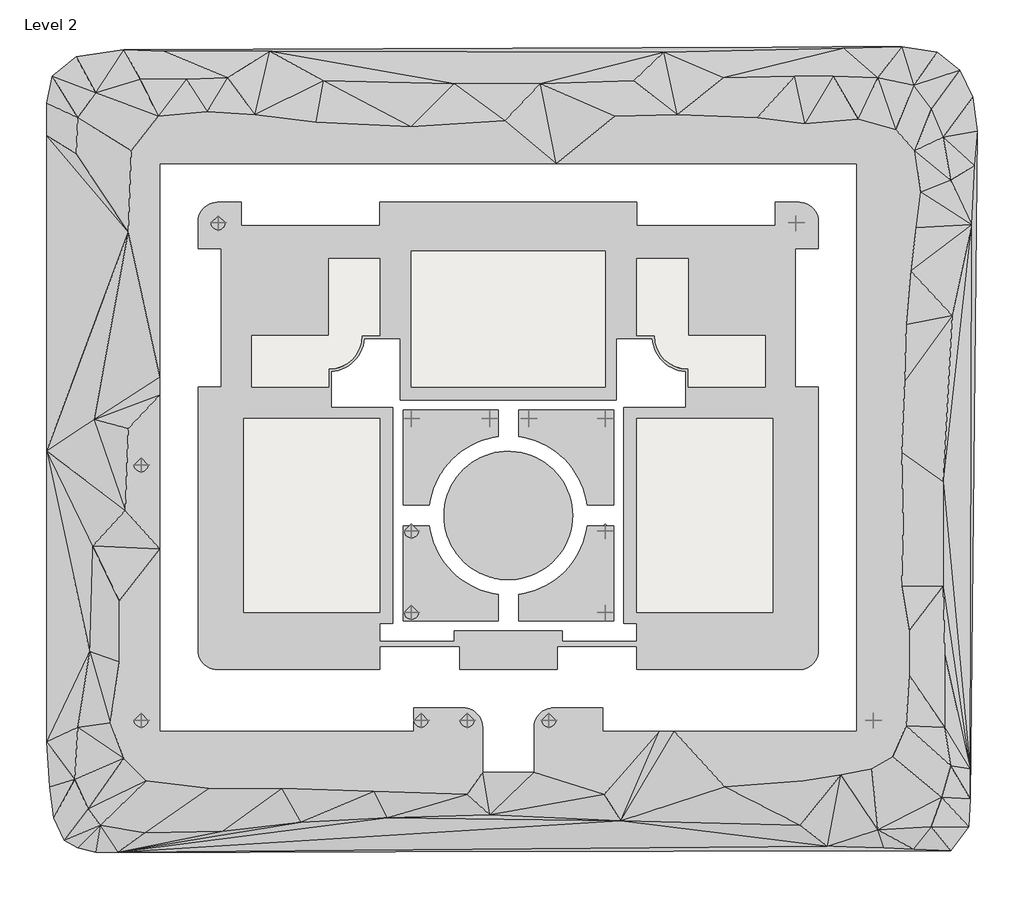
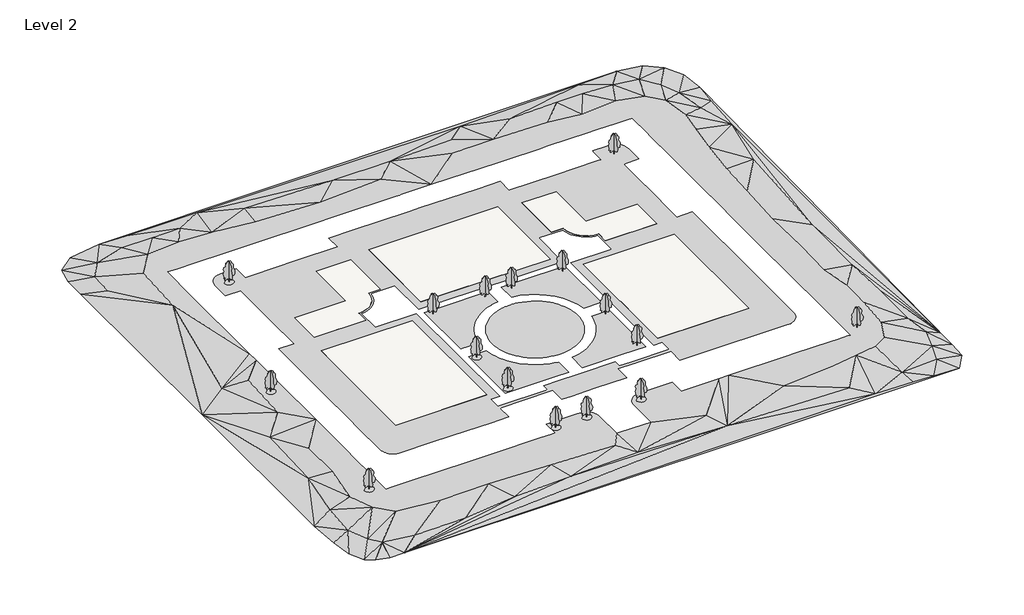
# One storey, incomplete: 16 geographic elements, 5 slabs, 1 proxy.
"""IFC4 building model written with IfcOpenShell, lengths in millimetres."""

from ifc_helpers import new_model, si_unit, point, frame, frame_2d, origin, place, context, project, spatial, polyline, circle_curve, trimmed, segment, composite_curve, outline, extrude, triangles, transform, mapped, element, save
from components import rpc_tree_deciduous_red_ash_25_14781bec

model = new_model("IFC4")

# Units and contexts
model_context = context("Model", 3, world=origin())
ifc_project = project(units=[si_unit("LENGTHUNIT", "METRE", prefix="MILLI")], contexts=[model_context])

# Site, building, storey
site = spatial("IfcSite", under=ifc_project)
building = spatial("IfcBuilding", under=site)
storey = spatial("IfcBuildingStorey", under=building, Name="Level 2", Elevation=4000.0)

# Proxy
placement = place(None, origin())
element("IfcBuildingElementProxy", 1, Name="Building Element Proxy", at=placement, inside=storey, context=model_context, shape_type="Tessellation", body=[
    triangles([(-195077.6740723, 8691.5340134, 0.0), (-195077.6740723, -66138.7722656, 0.0), (-195077.6740723, -135321.5075684, 0.0), (-194371.7264648, -145910.7030762, 0.0), (-193312.8143555, -153323.1343506, 0.0), (-190842.0070313, -158617.7414063, 0.0), (-187665.2334961, -160382.601123, 0.0), (-183429.5664551, -161441.5132324, 0.0), (-178134.9687012, -161441.5132324, 0.0), (19529.9893066, -161088.5487305, 0.0), (23765.6679749, -155440.9771729, 0.0), (24118.6394531, -148734.4842041, 0.0), (25883.5061462, 9750.4536804, 0.0), (24824.5870605, 17868.8360504, 0.0), (21647.827478, 24222.3517273, 0.0), (16353.2308868, 28458.0303955, 0.0), (7881.8758759, 29869.9232849, 0.0), (-176723.0734863, 29163.9756775, 0.0), (-188018.2166016, 27399.1113098, 0.0), (-193665.7788574, 22810.4588379, 0.0), (-195077.6740723, 16456.943161, 0.0), (-91565.4156006, -131797.3412842, 3048.0), (-91611.9522949, -131146.6833252, 3048.0), (-91750.6135986, -130509.2617676, 3048.0), (-91978.5810791, -129898.0618652, 3048.0), (-92291.2038574, -129325.5293701, 3048.0), (-92682.128833, -128803.3193848, 3048.0), (-93143.3937012, -128342.0545166, 3048.0), (-93665.6036865, -127951.129541, 3048.0), (-94085.0943604, -127722.0737549, 3048.0), (-94238.1361816, -127638.5067627, 3048.0), (-94849.336084, -127410.5392822, 3048.0), (-95486.7483398, -127271.8779785, 3048.0), (-96137.4156006, -127225.3412842, 3048.0), (-96917.0331299, -127225.3412842, 3048.0), (-107872.2156006, -127225.3412842, 3048.0), (-107872.2156006, -132711.7412842, 3048.0), (-109055.1945557, -132711.7412842, 3048.0), (-113205.545874, -132711.7412842, 3048.0), (-130021.8217529, -132711.7412842, 3048.0), (-136471.2234375, -132711.7412842, 3048.0), (-151031.4230713, -132711.7412842, 3048.0), (-156686.287207, -132711.7412842, 3048.0), (-166169.6711426, -132711.7412842, 3048.0), (-168222.6249023, -132711.7412842, 3048.0), (-168222.6249023, -129803.4071777, 3048.0), (-168222.6249023, -123715.5183105, 3048.0), (-168222.6249023, -112839.3542725, 3048.0), (-168222.6249023, -108944.6152588, 3048.0), (-168222.6249023, -89478.501123, 3048.0), (-168222.6249023, -87023.6556152, 3048.0), (-168222.6249023, -68873.2053589, 3048.0), (-168222.6249023, -52893.4737671, 3048.0), (-168222.6249023, -48677.8473633, 3048.0), (-168222.6249023, -9881.2910431, 3048.0), (-168222.6249023, -7335.4644608, 3048.0), (-168222.6249023, -2878.799572, 3048.0), (-168222.6249023, 2009.8571171, 3048.0), (-165023.8620117, 2009.8571171, 3048.0), (-158167.5177246, 2009.8571171, 3048.0), (-147975.5258789, 2009.8571171, 3048.0), (-137219.4568359, 2009.8571171, 3048.0), (-116835.2592041, 2009.8571171, 3048.0), (-107854.532959, 2009.8571171, 3048.0), (-86925.494165, 2009.8571171, 3048.0), (-85469.4156006, 2009.8571171, 3048.0), (-84851.657959, 2009.8571171, 3048.0), (-74135.7353027, 2009.8571171, 3048.0), (-50617.2778198, 2009.8571171, 3048.0), (-47895.234668, 2009.8571171, 3048.0), (-35482.0690979, 2009.8571171, 3048.0), (-32722.1166321, 2009.8571171, 3048.0), (-18502.3066864, 2009.8571171, 3048.0), (-15439.1645874, 2009.8571171, 3048.0), (-8244.3299149, 2009.8571171, 3048.0), (-4876.9546417, 2009.8571171, 3048.0), (-2716.2156006, 2009.8571171, 3048.0), (-2716.2156006, -6.8326078, 3048.0), (-2716.2156006, -5698.3579926, 3048.0), (-2716.2156006, -10713.0914337, 3048.0), (-2716.2156006, -19932.808905, 3048.0), (-2716.2156006, -25463.0759949, 3048.0), (-2716.2156006, -36324.047937, 3048.0), (-2716.2156006, -39230.4751831, 3048.0), (-2716.2156006, -54081.5454346, 3048.0), (-2716.2156006, -57640.1561279, 3048.0), (-2716.2156006, -78679.5509766, 3048.0), (-2716.2156006, -93648.8326172, 3048.0), (-2716.2156006, -99848.9937012, 3048.0), (-2716.2156006, -110282.3754639, 3048.0), (-2716.2156006, -119294.9323242, 3048.0), (-2716.2156006, -126435.2592773, 3048.0), (-2716.2156006, -131800.6713135, 3048.0), (-2716.2156006, -132711.7412842, 3048.0), (-3627.2861526, -132711.7412842, 3048.0), (-7128.3945419, -132711.7412842, 3048.0), (-9475.8297455, -132711.7412842, 3048.0), (-22487.2901917, -132711.7412842, 3048.0), (-25122.6386353, -132711.7412842, 3048.0), (-46095.4654541, -132711.7412842, 3048.0), (-49700.7337646, -132711.7412842, 3048.0), (-63066.6156006, -132711.7412842, 3048.0), (-63066.6156006, -127225.3412842, 3048.0), (-65737.3967651, -127225.3412842, 3048.0), (-74801.4156006, -127225.3412842, 3048.0), (-75452.0782104, -127271.8779785, 3048.0), (-76089.4951172, -127410.5392822, 3048.0), (-76700.6950195, -127638.5067627, 3048.0), (-77273.2275146, -127951.129541, 3048.0), (-77795.4375, -128342.0545166, 3048.0), (-78256.7023682, -128803.3193848, 3048.0), (-78647.6273438, -129325.5293701, 3048.0), (-78960.2501221, -129898.0618652, 3048.0), (-79188.2176025, -130509.2617676, 3048.0), (-79326.8789062, -131146.6833252, 3048.0), (-79373.4156006, -131797.3412842, 3048.0), (-79373.4156006, -142465.3412842, 3048.0), (-85469.4156006, -142465.3412842, 3048.0), (-91565.4156006, -142465.3412842, 3048.0), (-148258.2156006, -58492.9412842, 3048.0), (-148258.2156006, -90413.7370605, 3048.0), (-148258.2156006, -103602.7831787, 3048.0), (-148258.2156006, -104517.7412842, 3048.0), (-147156.4316895, -104517.7412842, 3048.0), (-135186.213501, -104517.7412842, 3048.0), (-115949.4156006, -104517.7412842, 3048.0), (-115949.4156006, -58492.9412842, 3048.0), (-62457.0156006, -18716.5424469, 3048.0), (-81786.1613525, -18716.5424469, 3048.0), (-88069.340625, -18716.5424469, 3048.0), (-106100.4074707, -18716.5424469, 3048.0), (-108481.8156006, -18716.5424469, 3048.0), (-108481.8156006, -51025.3412842, 3048.0), (-103366.0348389, -51025.3412842, 3048.0), (-89852.3852783, -51025.3412842, 3048.0), (-77007.5972168, -51025.3412842, 3048.0), (-62457.0156006, -51025.3412842, 3048.0), (-22680.6156006, -104517.7412842, 3048.0), (-22680.6156006, -101638.6053955, 3048.0), (-22680.6156006, -58492.9412842, 3048.0), (-54989.4156006, -58492.9412842, 3048.0), (-54989.4156006, -104517.7412842, 3048.0), (-25184.2092957, -104517.7412842, 3048.0), (-115949.4156006, -20545.3436096, 3048.0), (-128141.4156006, -20545.3436096, 3048.0), (-128141.4156006, -38833.3436096, 3048.0), (-146429.4156006, -38833.3436096, 3048.0), (-146429.4156006, -51025.3412842, 3048.0), (-128141.4156006, -51025.3412842, 3048.0), (-128141.4156006, -46758.1412842, 3048.0), (-127254.1209229, -46708.3117676, 3048.0), (-126377.9790527, -46559.4510864, 3048.0), (-125524.021875, -46313.428894, 3048.0), (-124702.9743164, -45973.3426758, 3048.0), (-123925.1706299, -45543.4619385, 3048.0), (-123200.3869629, -45029.2003052, 3048.0), (-122537.7390381, -44437.0224976, 3048.0), (-121945.5612305, -43774.3745728, 3048.0), (-121431.2949463, -43049.5909058, 3048.0), (-121001.414209, -42271.7825684, 3048.0), (-120661.3326416, -41450.7396606, 3048.0), (-120415.3104492, -40596.777832, 3048.0), (-120266.4451172, -39720.6406128, 3048.0), (-120216.6156006, -38833.3436096, 3048.0), (-115949.4156006, -38833.3436096, 3048.0), (-54989.4156006, -20545.3436096, 3048.0), (-54989.4156006, -38833.3436096, 3048.0), (-50722.2156006, -38833.3436096, 3048.0), (-50672.386084, -39720.6406128, 3048.0), (-50523.5254028, -40596.777832, 3048.0), (-50277.5032104, -41450.7396606, 3048.0), (-49937.4123413, -42271.7825684, 3048.0), (-49507.5362549, -43049.5909058, 3048.0), (-48993.2746216, -43774.3745728, 3048.0), (-48401.096814, -44437.0224976, 3048.0), (-47738.4488892, -45029.2003052, 3048.0), (-47013.6652222, -45543.4619385, 3048.0), (-46235.8568848, -45973.3426758, 3048.0), (-45414.8093262, -46313.428894, 3048.0), (-44560.8474976, -46559.4510864, 3048.0), (-43684.7102783, -46708.3117676, 3048.0), (-42797.4156006, -46758.1412842, 3048.0), (-42797.4156006, -51025.3412842, 3048.0), (-24509.4156006, -51025.3412842, 3048.0), (-24509.4156006, -39438.3415649, 3048.0), (-24509.4156006, -38833.3436096, 3048.0), (-25233.7899902, -38833.3436096, 3048.0), (-42797.4156006, -38833.3436096, 3048.0), (-42797.4156006, -24164.0971436, 3048.0), (-42797.4156006, -20545.3436096, 3048.0), (-47130.1836914, -20545.3436096, 3048.0), (-115949.4156006, -7134.1430283, 3048.0), (-115949.4156006, -12620.5424469, 3048.0), (-130528.7396484, -12620.5424469, 3048.0), (-146168.1478271, -12620.5424469, 3048.0), (-148867.8156006, -12620.5424469, 3048.0), (-148867.8156006, -7134.1430283, 3048.0), (-154506.6156006, -7134.1430283, 3048.0), (-155157.2828613, -7180.6791412, 3048.0), (-155794.6951172, -7319.3410263, 3048.0), (-156405.8950195, -7547.3056, 3048.0), (-156978.4182129, -7859.9318665, 3048.0), (-157500.6375, -8250.8556793, 3048.0), (-157961.9116699, -8712.1193848, 3048.0), (-158352.8273438, -9234.3328583, 3048.0), (-158665.4594238, -9806.8653534, 3048.0), (-158893.4083008, -10418.0617676, 3048.0), (-159032.0789063, -11055.479837, 3048.0), (-159078.6249023, -11706.1424469, 3048.0), (-159078.6249023, -18106.9424469, 3048.0), (-153592.2156006, -18106.9424469, 3048.0), (-153592.2156006, -24758.3027344, 3048.0), (-153592.2156006, -37262.048822, 3048.0), (-153592.2156006, -51025.3412842, 3048.0), (-159078.6249023, -51025.3412842, 3048.0), (-159078.6249023, -78739.1008301, 3048.0), (-159078.6249023, -94617.1456055, 3048.0), (-159078.6249023, -99827.106665, 3048.0), (-159078.6249023, -113509.3412842, 3048.0), (-159032.0789063, -114160.0085449, 3048.0), (-158893.4083008, -114797.4208008, 3048.0), (-158665.4594238, -115408.6207031, 3048.0), (-158352.8273438, -115981.1531982, 3048.0), (-157961.9116699, -116503.3631836, 3048.0), (-157500.6375, -116964.6280518, 3048.0), (-156978.4182129, -117355.5530273, 3048.0), (-156405.8950195, -117668.1758057, 3048.0), (-155794.6951172, -117896.1432861, 3048.0), (-155157.2828613, -118034.8045898, 3048.0), (-154506.6156006, -118081.3412842, 3048.0), (-142949.2094238, -118081.3412842, 3048.0), (-130823.3077148, -118081.3412842, 3048.0), (-122615.0738525, -118081.3412842, 3048.0), (-115949.4156006, -118081.3412842, 3048.0), (-115949.4156006, -112594.9412842, 3048.0), (-98155.2459229, -112594.9412842, 3048.0), (-97051.8156006, -112594.9412842, 3048.0), (-97051.8156006, -118081.3412842, 3048.0), (-93553.0431152, -118081.3412842, 3048.0), (-85469.4156006, -118081.3412842, 3048.0), (-73887.0156006, -118081.3412842, 3048.0), (-73887.0156006, -112594.9412842, 3048.0), (-67901.2786377, -112594.9412842, 3048.0), (-54989.4156006, -112594.9412842, 3048.0), (-54989.4156006, -118081.3412842, 3048.0), (-36978.6451904, -118081.3412842, 3048.0), (-29848.4478516, -118081.3412842, 3048.0), (-16432.2156006, -118081.3412842, 3048.0), (-15781.551828, -118034.8045898, 3048.0), (-15144.1349213, -117896.1432861, 3048.0), (-14979.1333649, -117834.6028564, 3048.0), (-14532.9385071, -117668.1758057, 3048.0), (-13960.406012, -117355.5530273, 3048.0), (-13438.1925385, -116964.6280518, 3048.0), (-12976.928833, -116503.3631836, 3048.0), (-12586.0050201, -115981.1531982, 3048.0), (-12273.3787537, -115408.6207031, 3048.0), (-12045.4135986, -114797.4208008, 3048.0), (-11906.7522949, -114160.0085449, 3048.0), (-11860.2156006, -113509.3412842, 3048.0), (-11860.2156006, -113260.1937012, 3048.0), (-11860.2156006, -101882.9811768, 3048.0), (-11860.2156006, -89195.1509766, 3048.0), (-11860.2156006, -51025.3412842, 3048.0), (-17346.6156006, -51025.3412842, 3048.0), (-17346.6156006, -45420.7578003, 3048.0), (-17346.6156006, -36949.5725464, 3048.0), (-17346.6156006, -25875.546167, 3048.0), (-17346.6156006, -19207.4369019, 3048.0), (-17346.6156006, -18106.9424469, 3048.0), (-11860.2156006, -18106.9424469, 3048.0), (-11860.2156006, -17090.9730652, 3048.0), (-11860.2156006, -11706.1424469, 3048.0), (-11906.7522949, -11055.479837, 3048.0), (-12045.4135986, -10418.0617676, 3048.0), (-12273.3787537, -9806.8653534, 3048.0), (-12586.0050201, -9234.3328583, 3048.0), (-12976.928833, -8712.1193848, 3048.0), (-13438.1925385, -8250.8556793, 3048.0), (-13960.406012, -7859.9318665, 3048.0), (-14532.9385071, -7547.3056, 3048.0), (-15144.1349213, -7319.3410263, 3048.0), (-15781.551828, -7180.6791412, 3048.0), (-16432.2156006, -7134.1430283, 3048.0), (-22071.0156006, -7134.1430283, 3048.0), (-22071.0156006, -7742.123941, 3048.0), (-22071.0156006, -12620.5424469, 3048.0), (-22976.7533386, -12620.5424469, 3048.0), (-31867.5478638, -12620.5424469, 3048.0), (-38123.177655, -12620.5424469, 3048.0), (-54989.4156006, -12620.5424469, 3048.0), (-54989.4156006, -7134.1430283, 3048.0), (-63187.5384521, -7134.1430283, 3048.0), (-83499.2288818, -7134.1430283, 3048.0), (-87430.1331299, -7134.1430283, 3048.0), (-107080.6546143, -7134.1430283, 3048.0), (-111072.6156006, -54073.3412842, 3048.0), (-103108.0691895, -54073.3412842, 3048.0), (-90020.5982666, -54073.3412842, 3048.0), (-76556.7875244, -54073.3412842, 3048.0), (-59866.2156006, -54073.3412842, 3048.0), (-59866.2156006, -39442.9412842, 3048.0), (-51310.0169312, -39442.9412842, 3048.0), (-51203.7210937, -40306.4467163, 3048.0), (-51010.063147, -41154.6368042, 3048.0), (-50731.0569214, -41978.7074341, 3048.0), (-50369.5999146, -42770.091687, 3048.0), (-49929.4546875, -43520.5621582, 3048.0), (-49415.1884033, -44222.3193237, 3048.0), (-48832.1495728, -44868.0752563, 3048.0), (-48186.3936401, -45451.1140869, 3048.0), (-47484.6318237, -45965.3803711, 3048.0), (-46734.1613525, -46405.530249, 3048.0), (-45942.7817505, -46766.982605, 3048.0), (-45118.7111206, -47045.9888306, 3048.0), (-44270.5163818, -47239.6467773, 3048.0), (-43407.0156006, -47345.9426147, 3048.0), (-43407.0156006, -55902.1412842, 3048.0), (-58037.4156006, -55902.1412842, 3048.0), (-58037.4156006, -107108.5412842, 3048.0), (-54989.4156006, -107108.5412842, 3048.0), (-54989.4156006, -111375.7412842, 3048.0), (-68081.5978638, -111375.7412842, 3048.0), (-72667.8156006, -111375.7412842, 3048.0), (-72667.8156006, -108937.3412842, 3048.0), (-85469.4156006, -108937.3412842, 3048.0), (-93048.4134521, -108937.3412842, 3048.0), (-98271.0156006, -108937.3412842, 3048.0), (-98271.0156006, -111226.9875732, 3048.0), (-98271.0156006, -111375.7412842, 3048.0), (-115949.4156006, -111375.7412842, 3048.0), (-115949.4156006, -107108.5412842, 3048.0), (-112901.4156006, -107108.5412842, 3048.0), (-112901.4156006, -55902.1412842, 3048.0), (-127531.8156006, -55902.1412842, 3048.0), (-127531.8156006, -47345.9426147, 3048.0), (-126668.3148193, -47239.6467773, 3048.0), (-125820.1154297, -47045.9888306, 3048.0), (-124996.0541016, -46766.982605, 3048.0), (-124204.6698486, -46405.530249, 3048.0), (-123454.1947266, -45965.3803711, 3048.0), (-122752.4422119, -45451.1140869, 3048.0), (-122106.6862793, -44868.0752563, 3048.0), (-121523.6427979, -44222.3193237, 3048.0), (-121009.3765137, -43520.5621582, 3048.0), (-120569.2266357, -42770.091687, 3048.0), (-120207.7789307, -41978.7074341, 3048.0), (-119928.7727051, -41154.6368042, 3048.0), (-119735.1101074, -40306.4467163, 3048.0), (-119628.8189209, -39442.9412842, 3048.0), (-111072.6156006, -39442.9412842, 3048.0), (-87907.8156006, -56511.7412842, 3048.0), (-90155.1667969, -56511.7412842, 3048.0), (-102901.7003906, -56511.7412842, 3048.0), (-110463.0156006, -56511.7412842, 3048.0), (-110463.0156006, -79066.9412842, 3048.0), (-104209.0438477, -79066.9412842, 3048.0), (-103981.7088867, -77708.7032593, 3048.0), (-103656.0636475, -76370.6314453, 3048.0), (-103233.8382568, -75059.8230835, 3048.0), (-102717.2744385, -73783.2451904, 3048.0), (-102109.1162109, -72547.6740967, 3048.0), (-101615.7602783, -71706.2091797, 3048.0), (-101412.5912842, -71359.6768433, 3048.0), (-100631.3924561, -70225.5553711, 3048.0), (-99769.6869141, -69151.3372192, 3048.0), (-98832.0325195, -68142.7197144, 3048.0), (-97823.4243164, -67205.0699707, 3048.0), (-96749.2015137, -66343.3597778, 3048.0), (-95615.0846924, -65562.1702515, 3048.0), (-94427.0827881, -64865.6453247, 3048.0), (-93191.5116943, -64257.4870972, 3048.0), (-91914.9384521, -63740.9232788, 3048.0), (-90604.1254395, -63318.6978882, 3048.0), (-90529.822998, -63300.615271, 3048.0), (-89266.0489746, -62993.0526489, 3048.0), (-87907.8156006, -62765.717688, 3048.0), (-87907.8156006, -106498.9412842, 3048.0), (-87907.8156006, -100244.9695312, 3048.0), (-89266.0489746, -100017.6345703, 3048.0), (-90604.1254395, -99691.9893311, 3048.0), (-91914.9384521, -99269.7639404, 3048.0), (-92501.7770508, -99032.2993652, 3048.0), (-93191.5116943, -98753.2001221, 3048.0), (-94427.0827881, -98145.0418945, 3048.0), (-95615.0846924, -97448.5169678, 3048.0), (-96749.2015137, -96667.3274414, 3048.0), (-97823.4243164, -95805.6125977, 3048.0), (-98832.0325195, -94867.9675049, 3048.0), (-99737.9958252, -93893.4409424, 3048.0), (-99769.6869141, -93859.35, 3048.0), (-100631.3924561, -92785.1271973, 3048.0), (-101412.5912842, -91651.010376, 3048.0), (-102109.1162109, -90463.0084717, 3048.0), (-102717.2744385, -89227.4373779, 3048.0), (-103233.8382568, -87950.8641357, 3048.0), (-103656.0636475, -86640.051123, 3048.0), (-103981.7088867, -85301.98396, 3048.0), (-104209.0438477, -83943.7412842, 3048.0), (-110463.0156006, -83943.7412842, 3048.0), (-110463.0156006, -106498.9412842, 3048.0), (-98671.1586182, -106498.9412842, 3048.0), (-92913.8356201, -106498.9412842, 3048.0), (-100709.4156006, -81505.3412842, 3048.0), (-100659.9953613, -82731.6571289, 3048.0), (-100512.0602051, -83950.0106689, 3048.0), (-100266.5682129, -85152.5140137, 3048.0), (-99925.1099854, -86331.3629883, 3048.0), (-99489.8993408, -87478.9115479, 3048.0), (-98963.7640137, -88587.7275879, 3048.0), (-98350.1084473, -89650.6022461, 3048.0), (-97652.9230957, -90660.6522217, 3048.0), (-96876.7193115, -91611.3290771, 3048.0), (-96026.5386475, -92496.4657471, 3048.0), (-95107.8877441, -93310.3230469, 3048.0), (-94126.7197266, -94047.6175781, 3048.0), (-93089.4156006, -94703.5682373, 3048.0), (-92286.1437012, -95125.1611084, 3048.0), (-92002.6912354, -95273.9241211, 3048.0), (-90873.5973633, -95754.9924316, 3048.0), (-89709.445166, -96143.6384766, 3048.0), (-88517.8062744, -96437.3507813, 3048.0), (-87306.3918457, -96634.2224854, 3048.0), (-86083.071167, -96732.979248, 3048.0), (-84855.7600342, -96732.979248, 3048.0), (-83632.4393555, -96634.2224854, 3048.0), (-82421.0249268, -96437.3507813, 3048.0), (-81229.3860352, -96143.6384766, 3048.0), (-80065.2338379, -95754.9924316, 3048.0), (-78936.1399658, -95273.9241211, 3048.0), (-77849.4156006, -94703.5682373, 3048.0), (-76812.1068237, -94047.6175781, 3048.0), (-75830.9481079, -93310.3230469, 3048.0), (-74912.2972046, -92496.4657471, 3048.0), (-74062.1118896, -91611.3290771, 3048.0), (-73285.9081055, -90660.6522217, 3048.0), (-72588.718103, -89650.6022461, 3048.0), (-71975.0671875, -88587.7275879, 3048.0), (-71576.305481, -87747.3602783, 3048.0), (-71448.9272095, -87478.9115479, 3048.0), (-71013.7212158, -86331.3629883, 3048.0), (-70672.2629883, -85152.5140137, 3048.0), (-70426.7709961, -83950.0106689, 3048.0), (-70278.8358398, -82731.6571289, 3048.0), (-70229.4156006, -81505.3412842, 3048.0), (-70278.8358398, -80279.0347412, 3048.0), (-70426.7709961, -79060.6718994, 3048.0), (-70672.2629883, -77858.1732056, 3048.0), (-71013.7212158, -76679.324231, 3048.0), (-71448.9272095, -75531.7710205, 3048.0), (-71975.0671875, -74422.9596313, 3048.0), (-72588.718103, -73360.0849731, 3048.0), (-73285.9081055, -72350.0303467, 3048.0), (-73979.2053223, -71500.8961304, 3048.0), (-74062.1118896, -71399.3534912, 3048.0), (-74912.2972046, -70514.2168213, 3048.0), (-75830.9481079, -69700.3641724, 3048.0), (-76812.1068237, -68963.0696411, 3048.0), (-77849.4156006, -68307.1143311, 3048.0), (-78936.1399658, -67736.7584473, 3048.0), (-80065.2338379, -67255.6947876, 3048.0), (-81229.3860352, -66867.0487427, 3048.0), (-82421.0249268, -66573.3317871, 3048.0), (-83632.4393555, -66376.460083, 3048.0), (-84855.7600342, -66277.7033203, 3048.0), (-86083.071167, -66277.7033203, 3048.0), (-87306.3918457, -66376.460083, 3048.0), (-88517.8062744, -66573.3317871, 3048.0), (-89709.445166, -66867.0487427, 3048.0), (-90745.7447021, -67213.0136719, 3048.0), (-90873.5973633, -67255.6947876, 3048.0), (-92002.6912354, -67736.7584473, 3048.0), (-93089.4156006, -68307.1143311, 3048.0), (-94126.7197266, -68963.0696411, 3048.0), (-95107.8877441, -69700.3641724, 3048.0), (-96026.5386475, -70514.2168213, 3048.0), (-96876.7193115, -71399.3534912, 3048.0), (-97652.9230957, -72350.0303467, 3048.0), (-98350.1084473, -73360.0849731, 3048.0), (-98963.7640137, -74422.9596313, 3048.0), (-99489.8993408, -75531.7710205, 3048.0), (-99925.1099854, -76679.324231, 3048.0), (-100266.5682129, -77858.1732056, 3048.0), (-100512.0602051, -79060.6718994, 3048.0), (-100659.9953613, -80279.0347412, 3048.0), (-83031.0156006, -56511.7412842, 3048.0), (-83031.0156006, -62765.717688, 3048.0), (-81672.7822266, -62993.0526489, 3048.0), (-80334.7057617, -63318.6978882, 3048.0), (-79023.892749, -63740.9232788, 3048.0), (-77747.3195068, -64257.4870972, 3048.0), (-76511.7484131, -64865.6453247, 3048.0), (-75323.7465088, -65562.1702515, 3048.0), (-74804.6758667, -65919.7112183, 3048.0), (-74189.6250366, -66343.3597778, 3048.0), (-73115.4068848, -67205.0699707, 3048.0), (-72106.7940308, -68142.7197144, 3048.0), (-71169.1442871, -69151.3372192, 3048.0), (-70307.4340942, -70225.5553711, 3048.0), (-69526.2445679, -71359.6768433, 3048.0), (-68829.7196411, -72547.6740967, 3048.0), (-68221.5614136, -73783.2451904, 3048.0), (-67704.9975952, -75059.8230835, 3048.0), (-67282.7722046, -76370.6314453, 3048.0), (-66957.1269653, -77708.7032593, 3048.0), (-66729.7920044, -79066.9412842, 3048.0), (-60475.8156006, -79066.9412842, 3048.0), (-60475.8156006, -56511.7412842, 3048.0), (-76196.1444214, -56511.7412842, 3048.0), (-83031.0156006, -106498.9412842, 3048.0), (-68802.8933716, -106498.9412842, 3048.0), (-60475.8156006, -106498.9412842, 3048.0), (-60475.8156006, -83943.7412842, 3048.0), (-66729.7920044, -83943.7412842, 3048.0), (-66957.1269653, -85301.98396, 3048.0), (-67282.7722046, -86640.051123, 3048.0), (-67704.9975952, -87950.8641357, 3048.0), (-68221.5614136, -89227.4373779, 3048.0), (-68829.7196411, -90463.0084717, 3048.0), (-69526.2445679, -91651.010376, 3048.0), (-70307.4340942, -92785.1271973, 3048.0), (-70749.6675659, -93336.4237793, 3048.0), (-71169.1442871, -93859.35, 3048.0), (-72106.7940308, -94867.9675049, 3048.0), (-73115.4068848, -95805.6125977, 3048.0), (-74189.6250366, -96667.3274414, 3048.0), (-75323.7465088, -97448.5169678, 3048.0), (-76511.7484131, -98145.0418945, 3048.0), (-77747.3195068, -98753.2001221, 3048.0), (-79023.892749, -99269.7639404, 3048.0), (-80334.7057617, -99691.9893311, 3048.0), (-81672.7822266, -100017.6345703, 3048.0), (-83031.0156006, -100244.9695312, 3048.0), (-167192.8086914, 28811.0018738, 0.0), (-142131.705835, 28811.0018738, 0.0), (-48593.824585, 28458.0303955, 0.0), (-5884.076889, 29516.9494812, 0.0), (25177.5585388, 1632.0713104, 0.0), (24471.6132568, -12486.8540955, 0.0), (24118.6394531, -141675.0267334, 0.0), (10705.6604919, -160735.565625, 0.0), (3646.1980797, -160382.601123, 0.0), (-9766.7805908, -160029.6180176, 0.0), (-188018.2166016, 4455.8562172, 1524.0), (-187665.2334961, 12927.2121002, 1524.0), (-183429.5664551, 18927.7551361, 1524.0), (-172840.3709473, 22104.5135559, 1524.0), (-161898.2109375, 22104.5135559, 1524.0), (-152014.9537354, 22457.4873596, 1524.0), (-129424.6768066, 21751.5397522, 1524.0), (-98363.0378906, 21045.5944702, 1524.0), (-77890.5991333, 21045.5944702, 1524.0), (-55653.2913574, 21751.5397522, 1524.0), (-34474.9003418, 22457.4873596, 1524.0), (-17532.1903198, 22810.4588379, 1524.0), (-8354.8888641, 22810.4588379, 1524.0), (2234.305481, 22457.4873596, 1524.0), (10705.6604919, 20692.6206665, 1524.0), (14941.3379974, 15045.0502716, 1524.0), (17765.1237762, 8338.560791, 1524.0), (19529.9893066, -1897.6601864, 1524.0), (19882.9631104, -34018.2165894, 1524.0), (17765.1237762, -73551.2081909, 1524.0), (17765.1237762, -98259.323291, 1524.0), (18118.0964172, -114496.0903564, 1524.0), (18118.0964172, -131791.778833, 1524.0), (19529.9893066, -140969.079126, 1524.0), (17412.1499725, -148381.5104004, 1524.0), (14941.3379974, -155440.9771729, 1524.0), (2234.305481, -156146.9154785, 1524.0), (-16120.2974304, -155088.0033691, 1524.0), (-58830.0462891, -154029.081958, 1524.0), (-89891.6852051, -152617.1867432, 1524.0), (-114246.8311523, -153323.1343506, 1524.0), (-134719.2745605, -154382.0557617, 1524.0), (-153426.8489502, -156499.898584, 1524.0), (-171781.4588379, -156852.8630859, 1524.0), (-182370.6543457, -155088.0033691, 1524.0), (-185194.4261719, -151205.3008301, 1524.0), (-188371.1811035, -144145.8340576, 1524.0), (-187665.2334961, -131791.778833, 1524.0), (-184841.4616699, -113790.142749, 1524.0), (-184135.5140625, -88729.0491943, 1524.0), (-183782.530957, -58726.3363403, 1524.0), (-175664.161377, -14251.7196259, 3048.0), (-174958.2137695, 5161.8023712, 3048.0), (-168604.6853027, 13280.1847412, 3048.0), (-156956.5776855, 14339.1038269, 3048.0), (-145661.4438721, 13633.1573822, 3048.0), (-131189.5365234, 11868.2918518, 3048.0), (-108599.2595947, 10809.3727661, 3048.0), (-86361.9564697, 12221.2656555, 3048.0), (-60241.9415039, 13280.1847412, 3048.0), (-45417.0696533, 13633.1573822, 3048.0), (-26356.5191345, 12927.2121002, 3048.0), (-15061.3783447, 11515.3192108, 3048.0), (-2354.3452469, 12574.2382965, 3048.0), (6469.9829865, 10103.4263214, 3048.0), (11058.6342957, 5161.8023712, 3048.0), (12470.5260223, -4721.4452385, 3048.0), (11411.6069366, -13192.8005402, 3048.0), (9999.7140472, -23429.0210815, 3048.0), (8940.7949615, -36136.0547607, 3048.0), (8587.8223206, -49549.0360474, 3048.0), (7881.8758759, -66491.7460693, 3048.0), (8234.8490982, -83787.4252441, 3048.0), (7881.8758759, -98259.323291, 3048.0), (9646.7414063, -108848.5187988, 3048.0), (9646.7414063, -119437.7143066, 3048.0), (8940.7949615, -131438.8050293, 3048.0), (5764.0371231, -138851.2363037, 3048.0), (822.4130276, -141675.0267334, 3048.0), (-6590.0227524, -143086.9126465, 3048.0), (-15414.3509857, -144498.8078613, 3048.0), (-34121.9265381, -145910.7030762, 3048.0), (-62712.753479, -147675.562793, 3048.0), (-95186.282959, -147675.562793, 3048.0), (-117423.586084, -146969.6244873, 3048.0), (-139307.924707, -146263.6768799, 3048.0), (-156603.6131836, -146263.6768799, 3048.0), (-171428.4757324, -144498.8078613, 3048.0), (-176723.0734863, -139204.2101074, 3048.0), (-179899.828418, -130732.8574219, 3048.0), (-177782.0041992, -116260.959375, 3048.0), (-177782.0041992, -101789.0613281, 3048.0), (-176370.1089844, -80257.6965088, 3048.0), (-175664.161377, -60844.1745117, 3048.0)], [[5, 6, 579], [5, 580, 4], [578, 6, 7], [8, 9, 578], [621, 579, 578], [579, 6, 578], [577, 578, 9], [580, 5, 579], [9, 576, 577], [578, 7, 8], [577, 621, 578], [580, 622, 581], [580, 579, 622], [580, 581, 3], [581, 622, 623], [582, 581, 623], [3, 581, 582], [622, 45, 623], [580, 3, 4], [45, 46, 623], [45, 621, 44], [47, 623, 46], [44, 621, 620], [622, 621, 45], [579, 621, 622], [47, 624, 623], [621, 577, 620], [620, 576, 619], [576, 620, 577], [620, 42, 43], [42, 620, 619], [42, 619, 41], [576, 575, 619], [620, 43, 44], [575, 574, 618], [575, 576, 9], [40, 41, 619], [619, 618, 40], [40, 618, 39], [618, 617, 37], [619, 575, 618], [9, 574, 575], [229, 230, 219], [232, 125, 231], [230, 231, 123], [233, 125, 232], [39, 618, 38], [618, 37, 38], [235, 233, 234], [618, 574, 617], [574, 572, 573], [624, 625, 582], [219, 220, 227], [624, 582, 623], [224, 225, 222], [47, 48, 624], [222, 223, 224], [222, 225, 221], [221, 226, 220], [218, 219, 123], [49, 625, 624], [626, 583, 50], [625, 583, 582], [625, 50, 583], [583, 626, 2], [49, 624, 48], [122, 217, 218], [50, 51, 626], [216, 217, 121], [50, 625, 49], [51, 52, 626], [226, 221, 225], [3, 582, 2], [228, 219, 227], [219, 228, 229], [230, 123, 219], [123, 122, 218], [231, 124, 123], [231, 125, 124], [235, 330, 331], [126, 332, 333], [233, 332, 125], [235, 236, 330], [331, 332, 233], [235, 331, 233], [394, 401, 393], [356, 361, 362], [126, 125, 332], [334, 126, 333], [121, 217, 122], [356, 357, 358], [399, 400, 398], [400, 397, 398], [216, 121, 120], [394, 395, 400], [227, 220, 226], [359, 356, 358], [36, 37, 35], [2, 582, 583], [34, 30, 33], [34, 22, 30], [29, 30, 28], [37, 119, 22], [32, 30, 31], [32, 33, 30], [35, 22, 34], [329, 330, 237], [329, 327, 328], [384, 402, 403], [237, 330, 236], [389, 401, 402], [237, 327, 329], [386, 402, 385], [385, 402, 384], [327, 237, 239], [238, 239, 237], [402, 386, 387], [26, 30, 25], [30, 27, 28], [30, 26, 27], [30, 24, 25], [119, 573, 118], [573, 119, 617], [30, 23, 24], [573, 117, 118], [30, 22, 23], [37, 22, 35], [381, 403, 380], [382, 383, 403], [381, 382, 403], [403, 383, 384], [380, 378, 379], [378, 380, 403], [326, 327, 240], [239, 240, 327], [242, 326, 240], [617, 574, 573], [397, 400, 396], [396, 400, 395], [401, 390, 391], [393, 401, 392], [392, 401, 391], [401, 394, 400], [405, 406, 418], [418, 404, 405], [418, 406, 407], [418, 485, 404], [418, 484, 485], [484, 418, 483], [482, 483, 470], [408, 418, 407], [418, 408, 409], [387, 388, 402], [418, 419, 420], [418, 420, 421], [425, 418, 424], [424, 418, 423], [418, 422, 423], [418, 421, 422], [418, 470, 483], [411, 412, 418], [409, 410, 418], [411, 418, 410], [412, 413, 418], [417, 418, 416], [416, 418, 415], [418, 414, 415], [413, 414, 418], [482, 470, 481], [439, 470, 418], [388, 389, 402], [389, 390, 401], [360, 356, 359], [37, 617, 119], [574, 9, 572], [626, 584, 2], [626, 627, 584], [584, 53, 54], [53, 584, 627], [627, 52, 53], [2, 584, 585], [120, 214, 215], [214, 120, 148], [214, 148, 147], [120, 335, 148], [626, 52, 627], [585, 54, 55], [209, 210, 211], [211, 196, 209], [54, 585, 584], [213, 147, 212], [195, 196, 211], [145, 195, 212], [209, 196, 198], [195, 211, 212], [145, 212, 147], [214, 147, 213], [2, 585, 1], [336, 149, 335], [335, 149, 148], [150, 336, 151], [336, 150, 149], [337, 151, 336], [337, 338, 152], [339, 153, 338], [338, 153, 152], [154, 339, 340], [337, 152, 151], [153, 339, 154], [195, 145, 194], [147, 146, 145], [155, 341, 156], [155, 154, 340], [156, 342, 157], [342, 156, 341], [157, 342, 343], [341, 155, 340], [145, 193, 194], [334, 335, 127], [216, 120, 215], [586, 57, 58], [586, 544, 585], [545, 544, 586], [544, 545, 1], [586, 58, 587], [1, 585, 544], [586, 585, 57], [587, 59, 588], [56, 57, 585], [55, 56, 585], [587, 58, 59], [21, 545, 20], [545, 21, 1], [20, 546, 19], [546, 20, 545], [19, 546, 18], [586, 546, 545], [587, 548, 547], [588, 548, 587], [18, 547, 534], [18, 546, 547], [534, 547, 548], [18, 534, 535], [548, 549, 534], [547, 546, 587], [586, 587, 546], [203, 206, 202], [205, 203, 204], [203, 205, 206], [206, 207, 202], [202, 207, 201], [201, 207, 208], [200, 201, 208], [199, 200, 209], [209, 200, 208], [198, 199, 209], [61, 588, 60], [549, 588, 589], [588, 549, 548], [60, 588, 59], [588, 61, 589], [62, 590, 589], [63, 590, 62], [589, 550, 535], [550, 589, 590], [535, 550, 551], [589, 535, 549], [550, 590, 591], [62, 589, 61], [549, 535, 534], [196, 197, 198], [18, 535, 17], [363, 355, 362], [355, 356, 362], [363, 364, 355], [478, 479, 470], [470, 477, 478], [477, 470, 476], [365, 366, 355], [355, 366, 354], [334, 127, 126], [366, 367, 354], [355, 364, 365], [369, 370, 354], [368, 369, 354], [367, 368, 354], [354, 370, 371], [480, 470, 479], [127, 335, 120], [473, 474, 470], [473, 470, 472], [471, 472, 470], [475, 470, 474], [469, 470, 468], [470, 467, 468], [467, 470, 466], [466, 470, 465], [475, 476, 470], [372, 353, 354], [374, 375, 353], [373, 374, 353], [372, 373, 353], [353, 377, 352], [377, 353, 376], [376, 353, 375], [372, 354, 371], [481, 470, 480], [470, 464, 465], [344, 158, 157], [158, 345, 159], [345, 158, 344], [159, 345, 346], [160, 346, 347], [346, 160, 159], [161, 347, 348], [347, 161, 160], [161, 348, 162], [351, 165, 350], [162, 349, 163], [162, 348, 349], [163, 350, 164], [350, 163, 349], [164, 350, 165], [193, 144, 132], [145, 144, 193], [296, 192, 193], [351, 144, 165], [157, 343, 344], [297, 133, 351], [133, 132, 351], [132, 144, 351], [298, 299, 135], [298, 133, 297], [135, 134, 298], [298, 134, 133], [131, 130, 295], [551, 591, 592], [591, 63, 64], [64, 65, 591], [591, 551, 550], [132, 131, 296], [132, 296, 193], [65, 66, 592], [592, 66, 67], [65, 592, 591], [67, 68, 592], [131, 295, 296], [551, 592, 552], [130, 294, 295], [63, 591, 590], [356, 360, 361], [535, 551, 536], [426, 418, 425], [105, 114, 115], [105, 115, 116], [105, 112, 113], [111, 105, 110], [112, 105, 111], [105, 113, 114], [105, 116, 102], [532, 533, 510], [427, 428, 418], [418, 428, 429], [530, 531, 510], [439, 429, 430], [429, 439, 418], [532, 510, 531], [431, 439, 430], [240, 241, 242], [108, 109, 105], [107, 105, 106], [105, 107, 108], [109, 110, 105], [243, 324, 242], [324, 243, 323], [242, 324, 325], [326, 242, 325], [511, 529, 530], [526, 527, 511], [528, 511, 527], [511, 525, 526], [524, 525, 511], [523, 524, 511], [523, 512, 522], [529, 511, 528], [511, 530, 510], [523, 511, 512], [102, 116, 117], [439, 431, 432], [439, 433, 434], [439, 434, 435], [439, 435, 436], [470, 439, 454], [438, 439, 437], [439, 436, 437], [441, 439, 440], [452, 453, 454], [454, 456, 457], [456, 454, 455], [470, 454, 462], [441, 442, 439], [449, 450, 454], [451, 452, 454], [454, 450, 451], [448, 449, 454], [454, 439, 448], [432, 433, 439], [445, 439, 444], [439, 443, 444], [445, 446, 439], [513, 517, 518], [513, 516, 517], [519, 512, 513], [520, 521, 512], [448, 439, 447], [508, 499, 500], [439, 446, 447], [504, 505, 507], [502, 503, 507], [504, 507, 503], [508, 501, 507], [439, 442, 443], [521, 522, 512], [323, 243, 322], [458, 454, 457], [572, 571, 615], [571, 572, 543], [615, 100, 572], [572, 101, 616], [571, 614, 615], [616, 117, 573], [571, 613, 614], [613, 571, 543], [97, 613, 96], [613, 97, 614], [96, 613, 95], [543, 570, 613], [615, 614, 99], [572, 9, 543], [97, 98, 614], [101, 102, 616], [104, 102, 103], [104, 105, 102], [572, 100, 101], [100, 615, 99], [143, 246, 247], [138, 247, 248], [614, 98, 99], [102, 117, 616], [542, 541, 570], [541, 542, 543], [568, 612, 570], [612, 95, 613], [569, 570, 541], [568, 570, 569], [541, 10, 569], [542, 570, 543], [11, 568, 569], [567, 568, 12], [12, 568, 11], [540, 12, 13], [612, 568, 611], [11, 569, 10], [543, 9, 541], [540, 567, 12], [95, 612, 94], [92, 93, 610], [91, 92, 609], [94, 610, 93], [611, 567, 610], [567, 611, 568], [610, 566, 609], [566, 610, 567], [609, 566, 565], [609, 92, 610], [567, 540, 566], [610, 94, 611], [612, 611, 94], [540, 565, 566], [612, 613, 570], [9, 10, 541], [90, 91, 609], [244, 245, 246], [244, 322, 243], [321, 322, 246], [320, 321, 142], [244, 246, 322], [249, 250, 251], [251, 252, 253], [251, 260, 248], [143, 142, 246], [249, 251, 248], [138, 248, 261], [515, 513, 514], [515, 516, 513], [142, 141, 319], [142, 321, 246], [247, 138, 143], [319, 320, 142], [139, 138, 262], [512, 519, 520], [253, 254, 251], [256, 251, 255], [258, 251, 257], [251, 256, 257], [258, 259, 251], [260, 261, 248], [608, 90, 609], [251, 259, 260], [261, 262, 138], [606, 87, 88], [140, 139, 263], [88, 89, 607], [263, 139, 262], [608, 564, 607], [564, 608, 565], [564, 606, 607], [606, 564, 563], [87, 606, 605], [607, 606, 88], [565, 540, 564], [608, 607, 89], [90, 608, 89], [540, 563, 564], [255, 251, 254], [565, 608, 609], [507, 505, 506], [540, 539, 563], [573, 572, 616], [606, 563, 605], [461, 462, 454], [463, 470, 462], [464, 470, 463], [459, 460, 454], [493, 494, 509], [460, 461, 454], [458, 459, 454], [486, 489, 509], [487, 488, 486], [486, 488, 489], [489, 490, 509], [491, 492, 509], [136, 299, 300], [137, 136, 300], [492, 493, 509], [490, 491, 509], [495, 509, 494], [299, 136, 135], [508, 496, 497], [496, 508, 495], [508, 509, 495], [497, 498, 508], [501, 508, 500], [508, 498, 499], [141, 318, 319], [502, 507, 501], [301, 137, 300], [518, 519, 513], [314, 315, 179], [313, 314, 178], [179, 315, 180], [178, 314, 179], [315, 316, 180], [317, 183, 182], [317, 181, 316], [181, 317, 182], [316, 181, 180], [318, 183, 317], [318, 184, 183], [137, 302, 128], [302, 303, 167], [167, 166, 302], [167, 303, 168], [302, 166, 128], [170, 304, 305], [169, 168, 303], [170, 169, 304], [169, 303, 304], [305, 306, 171], [291, 166, 191], [294, 129, 293], [294, 130, 129], [593, 552, 68], [552, 592, 68], [129, 128, 293], [291, 292, 293], [291, 128, 166], [553, 593, 594], [593, 68, 69], [593, 553, 552], [293, 128, 291], [552, 553, 536], [310, 175, 309], [175, 310, 311], [308, 309, 174], [174, 309, 175], [308, 174, 173], [313, 177, 312], [177, 313, 178], [312, 176, 311], [176, 312, 177], [311, 176, 175], [172, 171, 306], [172, 307, 173], [170, 305, 171], [306, 307, 172], [594, 536, 553], [69, 70, 594], [71, 594, 70], [536, 594, 554], [307, 308, 173], [594, 593, 69], [191, 290, 291], [302, 137, 301], [552, 536, 551], [185, 184, 266], [189, 188, 187], [266, 184, 265], [265, 140, 264], [185, 267, 186], [185, 266, 267], [187, 186, 268], [265, 184, 140], [318, 140, 184], [267, 268, 186], [190, 189, 289], [190, 289, 290], [288, 289, 269], [289, 189, 268], [270, 288, 269], [273, 284, 287], [287, 288, 270], [270, 273, 287], [269, 289, 268], [189, 187, 268], [275, 276, 280], [84, 85, 604], [603, 83, 84], [604, 85, 86], [140, 263, 264], [603, 84, 604], [605, 563, 604], [602, 82, 603], [82, 83, 603], [562, 603, 604], [602, 603, 562], [563, 562, 604], [604, 86, 605], [273, 270, 272], [275, 281, 274], [274, 282, 273], [270, 271, 272], [81, 602, 601], [79, 80, 601], [601, 80, 81], [539, 601, 602], [602, 562, 539], [82, 602, 81], [562, 563, 539], [140, 318, 141], [539, 600, 601], [284, 273, 283], [284, 286, 287], [286, 284, 285], [273, 282, 283], [277, 278, 279], [280, 281, 275], [276, 279, 280], [281, 282, 274], [279, 276, 277], [71, 72, 595], [595, 554, 594], [595, 72, 73], [595, 73, 596], [554, 595, 555], [594, 71, 595], [74, 75, 596], [555, 596, 556], [555, 595, 596], [597, 556, 596], [555, 556, 537], [596, 75, 597], [596, 73, 74], [554, 555, 537], [599, 78, 600], [597, 76, 77], [599, 77, 78], [599, 598, 77], [78, 79, 600], [561, 560, 599], [561, 600, 539], [560, 538, 13], [538, 560, 561], [13, 538, 539], [560, 13, 14], [561, 539, 538], [561, 599, 600], [559, 599, 560], [597, 598, 557], [598, 597, 77], [537, 557, 17], [537, 556, 557], [558, 17, 557], [17, 535, 537], [557, 598, 558], [556, 597, 557], [559, 14, 15], [559, 598, 599], [558, 15, 16], [15, 558, 559], [558, 16, 17], [559, 558, 598], [560, 14, 559], [597, 75, 76], [601, 600, 79], [554, 537, 536], [539, 540, 13], [191, 190, 290], [605, 86, 87], [537, 535, 536], [418, 426, 427]], closed=False),
])

# Geographic elements
rpc_tree_deciduous_red_ash_25_shape = rpc_tree_deciduous_red_ash_25_14781bec(model_context)
element("IfcGeographicElement", 2, ObjectType="RPC Tree - Deciduous : Red Ash - 25'", at=placement, inside=storey, context=model_context, shape_type="MappedRepresentation", body=[
    mapped(rpc_tree_deciduous_red_ash_25_shape, transform((-108481.8156636, -58492.9428359, 3048.0), x_axis=(1.0, 0.0, 0.0), y_axis=(0.0, 1.0, 0.0), z_axis=(0.0, 0.0, 1.0))),
])
element("IfcGeographicElement", 3, ObjectType="RPC Tree - Deciduous : Red Ash - 25'", at=placement, inside=storey, context=model_context, shape_type="MappedRepresentation", body=[
    mapped(rpc_tree_deciduous_red_ash_25_shape, transform((-89889.0156636, -58492.9428359, 3048.0), x_axis=(1.0, 0.0, 0.0), y_axis=(0.0, 1.0, 0.0), z_axis=(0.0, 0.0, 1.0))),
])
element("IfcGeographicElement", 4, ObjectType="RPC Tree - Deciduous : Red Ash - 25'", at=placement, inside=storey, context=model_context, shape_type="MappedRepresentation", body=[
    mapped(rpc_tree_deciduous_red_ash_25_shape, transform((-80592.6156636, -58492.9428359, 3048.0), x_axis=(1.0, 0.0, 0.0), y_axis=(0.0, 1.0, 0.0), z_axis=(0.0, 0.0, 1.0))),
])
element("IfcGeographicElement", 5, ObjectType="RPC Tree - Deciduous : Red Ash - 25'", at=placement, inside=storey, context=model_context, shape_type="MappedRepresentation", body=[
    mapped(rpc_tree_deciduous_red_ash_25_shape, transform((-62457.0156636, -58492.9428359, 3048.0), x_axis=(1.0, 0.0, 0.0), y_axis=(0.0, 1.0, 0.0), z_axis=(0.0, 0.0, 1.0))),
])
element("IfcGeographicElement", 6, ObjectType="RPC Tree - Deciduous : Red Ash - 25'", at=placement, inside=storey, context=model_context, shape_type="MappedRepresentation", body=[
    mapped(rpc_tree_deciduous_red_ash_25_shape, transform((-108481.8156636, -85162.9428359, 3048.0), x_axis=(1.0, 0.0, 0.0), y_axis=(0.0, 1.0, 0.0), z_axis=(0.0, 0.0, 1.0))),
])
element("IfcGeographicElement", 7, ObjectType="RPC Tree - Deciduous : Red Ash - 25'", at=placement, inside=storey, context=model_context, shape_type="MappedRepresentation", body=[
    mapped(rpc_tree_deciduous_red_ash_25_shape, transform((-62457.0156636, -85162.9428359, 3048.0), x_axis=(1.0, 0.0, 0.0), y_axis=(0.0, 1.0, 0.0), z_axis=(0.0, 0.0, 1.0))),
])
element("IfcGeographicElement", 8, ObjectType="RPC Tree - Deciduous : Red Ash - 25'", at=placement, inside=storey, context=model_context, shape_type="MappedRepresentation", body=[
    mapped(rpc_tree_deciduous_red_ash_25_shape, transform((-108481.8156636, -104517.7428359, 3048.0), x_axis=(1.0, 0.0, 0.0), y_axis=(0.0, 1.0, 0.0), z_axis=(0.0, 0.0, 1.0))),
])
element("IfcGeographicElement", 9, ObjectType="RPC Tree - Deciduous : Red Ash - 25'", at=placement, inside=storey, context=model_context, shape_type="MappedRepresentation", body=[
    mapped(rpc_tree_deciduous_red_ash_25_shape, transform((-62457.0156636, -104517.7428359, 3048.0), x_axis=(1.0, 0.0, 0.0), y_axis=(0.0, 1.0, 0.0), z_axis=(0.0, 0.0, 1.0))),
])
element("IfcGeographicElement", 10, ObjectType="RPC Tree - Deciduous : Red Ash - 25'", at=placement, inside=storey, context=model_context, shape_type="MappedRepresentation", body=[
    mapped(rpc_tree_deciduous_red_ash_25_shape, transform((-106195.8156636, -130120.9428359, 3048.0), x_axis=(1.0, 0.0, 0.0), y_axis=(0.0, 1.0, 0.0), z_axis=(0.0, 0.0, 1.0))),
])
element("IfcGeographicElement", 11, ObjectType="RPC Tree - Deciduous : Red Ash - 25'", at=placement, inside=storey, context=model_context, shape_type="MappedRepresentation", body=[
    mapped(rpc_tree_deciduous_red_ash_25_shape, transform((-95223.0156636, -130120.9428359, 3048.0), x_axis=(1.0, 0.0, 0.0), y_axis=(0.0, 1.0, 0.0), z_axis=(0.0, 0.0, 1.0))),
])
element("IfcGeographicElement", 12, ObjectType="RPC Tree - Deciduous : Red Ash - 25'", at=placement, inside=storey, context=model_context, shape_type="MappedRepresentation", body=[
    mapped(rpc_tree_deciduous_red_ash_25_shape, transform((-75868.2156636, -130120.9428359, 3048.0), x_axis=(1.0, 0.0, 0.0), y_axis=(0.0, 1.0, 0.0), z_axis=(0.0, 0.0, 1.0))),
])
element("IfcGeographicElement", 13, ObjectType="RPC Tree - Deciduous : Red Ash - 25'", at=placement, inside=storey, context=model_context, shape_type="MappedRepresentation", body=[
    mapped(rpc_tree_deciduous_red_ash_25_shape, transform((-172642.2156636, -130120.9428359, 3048.0), x_axis=(1.0, 0.0, 0.0), y_axis=(0.0, 1.0, 0.0), z_axis=(0.0, 0.0, 1.0))),
])
element("IfcGeographicElement", 14, ObjectType="RPC Tree - Deciduous : Red Ash - 25'", at=placement, inside=storey, context=model_context, shape_type="MappedRepresentation", body=[
    mapped(rpc_tree_deciduous_red_ash_25_shape, transform((-172642.2156636, -69465.7428359, 3048.0), x_axis=(1.0, 0.0, 0.0), y_axis=(0.0, 1.0, 0.0), z_axis=(0.0, 0.0, 1.0))),
])
element("IfcGeographicElement", 15, ObjectType="RPC Tree - Deciduous : Red Ash - 25'", at=placement, inside=storey, context=model_context, shape_type="MappedRepresentation", body=[
    mapped(rpc_tree_deciduous_red_ash_25_shape, transform((-154354.2156636, -12010.9428359, 3048.0), x_axis=(1.0, 0.0, 0.0), y_axis=(0.0, 1.0, 0.0), z_axis=(0.0, 0.0, 1.0))),
])
element("IfcGeographicElement", 16, ObjectType="RPC Tree - Deciduous : Red Ash - 25'", at=placement, inside=storey, context=model_context, shape_type="MappedRepresentation", body=[
    mapped(rpc_tree_deciduous_red_ash_25_shape, transform((-17194.2156636, -12010.9428359, 3048.0), x_axis=(1.0, 0.0, 0.0), y_axis=(0.0, 1.0, 0.0), z_axis=(0.0, 0.0, 1.0))),
])
element("IfcGeographicElement", 17, ObjectType="RPC Tree - Deciduous : Red Ash - 25'", at=placement, inside=storey, context=model_context, shape_type="MappedRepresentation", body=[
    mapped(rpc_tree_deciduous_red_ash_25_shape, transform((1093.7843364, -130120.9428359, 3048.0), x_axis=(1.0, 0.0, 0.0), y_axis=(0.0, 1.0, 0.0), z_axis=(0.0, 0.0, 1.0))),
])

# Slabs
element("IfcSlab", 18, ObjectType="Pad 1", at=placement, inside=storey, context=model_context, shape_type="SweptSolid", body=[
    extrude(outline(polyline([(-148258.2156636, -58492.9428359), (-115949.4156636, -58492.9428359), (-115949.4156636, -104517.7428359), (-148258.2156636, -104517.7428359), (-148258.2156636, -58492.9428359)])), frame((0.0, 0.0, 2743.1999999), z_axis=(0.0, 0.0, 1.0), x_axis=(1.0, 0.0, 0.0)), (0.0, 0.0, 1.0), 304.8),
])
element("IfcSlab", 19, ObjectType="Pad 1", at=placement, inside=storey, context=model_context, shape_type="SweptSolid", body=[
    extrude(outline(polyline([(-62457.0156636, -18716.5428359), (-62457.0156636, -51025.3428359), (-108481.8156636, -51025.3428359), (-108481.8156636, -18716.5428359), (-62457.0156636, -18716.5428359)])), frame((0.0, 0.0, 2743.1999999), z_axis=(0.0, 0.0, 1.0), x_axis=(1.0, 0.0, 0.0)), (0.0, 0.0, 1.0), 304.8),
])
element("IfcSlab", 20, ObjectType="Pad 1", at=placement, inside=storey, context=model_context, shape_type="SweptSolid", body=[
    extrude(outline(polyline([(-22680.6156636, -104517.7428359), (-54989.4156636, -104517.7428359), (-54989.4156636, -58492.9428359), (-22680.6156636, -58492.9428359), (-22680.6156636, -104517.7428359)])), frame((0.0, 0.0, 2743.1999999), z_axis=(0.0, 0.0, 1.0), x_axis=(1.0, 0.0, 0.0)), (0.0, 0.0, 1.0), 304.8),
])
element("IfcSlab", 21, ObjectType="Pad 1", at=placement, inside=storey, context=model_context, shape_type="SweptSolid", body=[
    extrude(outline(composite_curve([segment(polyline([(-115949.4156636, -20545.3428359), (-115949.4156636, -38833.3428359), (-120216.6156636, -38833.3428359)]), True, "CONTINUOUS"), segment(trimmed(circle_curve(frame_2d((-128141.4156636, -38833.3428359)), 7924.8), [point((-120216.6156636, -38833.3428359))], [point((-128141.4156636, -46758.1428359))], False, "CARTESIAN"), True, "CONTINUOUS"), segment(polyline([(-128141.4156636, -46758.1428359), (-128141.4156636, -51025.3428359), (-146429.4156636, -51025.3428359), (-146429.4156636, -38833.3428359), (-128141.4156636, -38833.3428359), (-128141.4156636, -20545.3428359), (-115949.4156636, -20545.3428359)]), True, "CONTINUOUS")], self_intersect=False)), frame((0.0, 0.0, 2743.1999999), z_axis=(0.0, 0.0, 1.0), x_axis=(1.0, 0.0, 0.0)), (0.0, 0.0, 1.0), 304.8),
])
element("IfcSlab", 22, ObjectType="Pad 1", at=placement, inside=storey, context=model_context, shape_type="SweptSolid", body=[
    extrude(outline(composite_curve([segment(polyline([(-54989.4156636, -20545.3428359), (-42797.4156636, -20545.3428359), (-42797.4156636, -38833.3428359), (-24509.4156636, -38833.3428359), (-24509.4156636, -51025.3428359), (-42797.4156636, -51025.3428359), (-42797.4156636, -46758.1428359)]), True, "CONTINUOUS"), segment(trimmed(circle_curve(frame_2d((-42797.4156636, -38833.3428359)), 7924.8), [point((-42797.4156636, -46758.1428359))], [point((-50722.2156636, -38833.3428359))], False, "CARTESIAN"), True, "CONTINUOUS"), segment(polyline([(-50722.2156636, -38833.3428359), (-54989.4156636, -38833.3428359), (-54989.4156636, -20545.3428359)]), True, "CONTINUOUS")], self_intersect=False)), frame((0.0, 0.0, 2743.1999999), z_axis=(0.0, 0.0, 1.0), x_axis=(1.0, 0.0, 0.0)), (0.0, 0.0, 1.0), 304.8),
])

save(model, "model.ifc")
